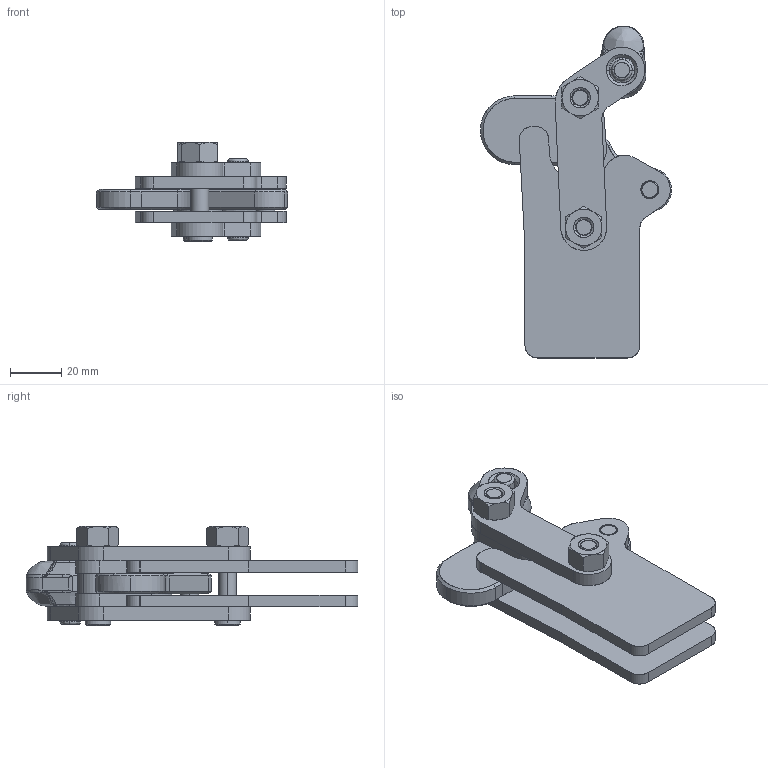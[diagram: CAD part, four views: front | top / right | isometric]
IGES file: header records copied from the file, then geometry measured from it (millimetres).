
Start section: SolidWorks IGES file using analytic representation for surfaces
Global section: file name: D:\GH Files\GH-SW-FILES\GH7\702C,701C\701C.IGS; native system: SolidWorks 2006 by SolidWorks Corporation; preprocessor: SolidWorks 2006 by SolidWorks Corporation; author: Administrator; date: 060705.124141; units: millimetre
Bounding box: 74.84 x 130 x 38.78 mm (x, y, z)
Surface area: 43481.5 mm2 (no closed solid volume)
Topology: 0 solids, 0 shells, 1193 faces, 9642 edges, 9641 vertices
Faces by surface type: bspline 735, revolution 458
